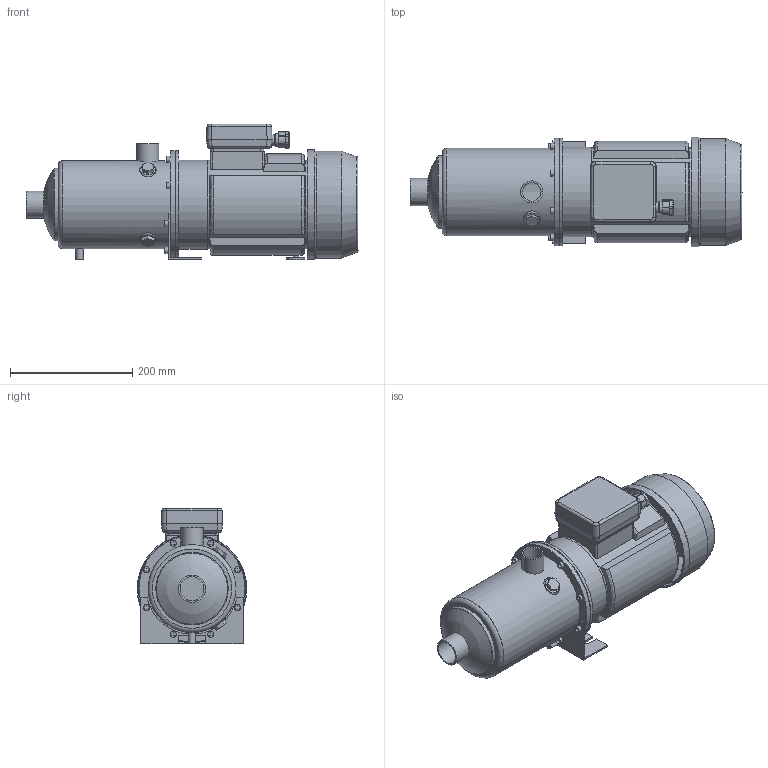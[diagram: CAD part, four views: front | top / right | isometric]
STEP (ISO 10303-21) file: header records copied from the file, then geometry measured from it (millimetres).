
FILE_DESCRIPTION(/* description */ ('Unknown'),/* implementation_level */ '2;1');
FILE_NAME(/* name */ 'MH 3 [7] T6 IE3',/* time_stamp */ '2026-07-10T15:11:14+02:00',/* author */ ('Unknown'),/* organization */ ('Unknown'),/* preprocessor_version */ 'ST-DEVELOPER v20',/* originating_system */ 'Solid Edge',/* authorisation */ 'Unknown');
FILE_SCHEMA (('AUTOMOTIVE_DESIGN {1 0 10303 214 3 1 1}'));
Length unit declared in the file: millimetre
Products named in the file (10): MH 3 [7] T6 IE3; Flangia motore Tonda M90; Corpo MH 3-5 [7]; Motore MEC 90 - T; carcassa MEC 90; Copriventola MEC 90; Ghiera PG13,5 cod. SAV.GHI.20; Basetta MEC 80-90-100 T; Piedino MEC 90 int.90; Staffa 3-5-9 int.90
Assembly tree (9 placements, depth 3):
  MH 3 [7] T6 IE3
    Flangia motore Tonda M90
    Corpo MH 3-5 [7]
    Motore MEC 90 - T
      carcassa MEC 90
      Copriventola MEC 90
      Ghiera PG13,5 cod. SAV.GHI.20
      Basetta MEC 80-90-100 T
    Piedino MEC 90 int.90
    Staffa 3-5-9 int.90
Bounding box: 542.6 x 179.1 x 221.5 mm (x, y, z)
Volume: 2938009 mm3; surface area: 699988.8 mm2
Topology: 8 solids, 8 shells, 323 faces, 769 edges, 509 vertices
Faces by surface type: plane 181, cylinder 101, cone 20, torus 11, bspline 8, sphere 2
Full cylindrical faces by diameter (mm): 7 x4, 10 x9, 12 x1, 13 x1, 17 x1, 19.73 x1, 20.4 x1, 21 x1, 30 x1, 30.291 x1, 36 x1, 38.952 x1, 44.5 x1, 116.1 x1, 118.5 x1, 135 x1, 140 x3, 141.1 x1, 143.5 x1, 145 x1, 146 x1, 169.5 x1, 173.5 x1, 174.1 x2, 174.5 x1, 176.5 x2, 179.1 x1
Entity records: 10623 total; most frequent: CARTESIAN_POINT 1965, DIRECTION 1513, ORIENTED_EDGE 1354, EDGE_CURVE 677, AXIS2_PLACEMENT_3D 564, VERTEX_POINT 479, EDGE_LOOP 442, FACE_BOUND 442
